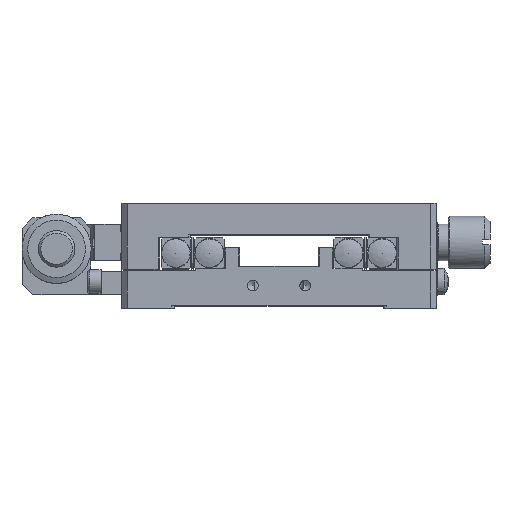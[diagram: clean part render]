
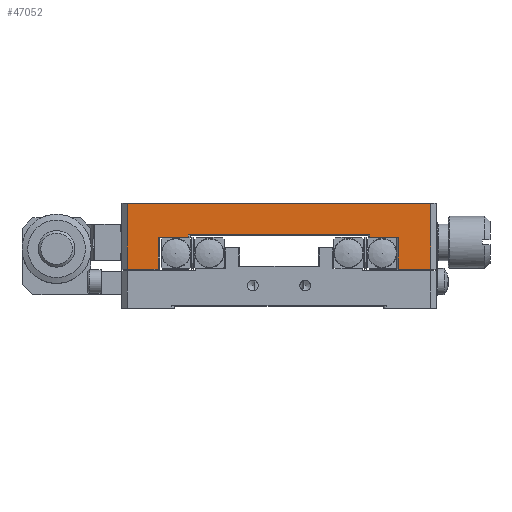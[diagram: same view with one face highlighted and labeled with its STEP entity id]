
A CAD part, top view. The second image highlights one B-rep face of the part: STEP entity #47052.
In plain terms, the highlighted planar face has unit normal (0, 0, 1).
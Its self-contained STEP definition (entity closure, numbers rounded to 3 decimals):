
#1277 = CARTESIAN_POINT ( 'NONE',  ( -54.062, 80.603, 68.814 ) ) ;
#4478 = EDGE_CURVE ( 'NONE', #77217, #39485, #8349, .T. ) ;
#4525 = CARTESIAN_POINT ( 'NONE',  ( -41.362, 74.103, 68.814 ) ) ;
#5377 = VECTOR ( 'NONE', #20090, 1000. ) ;
#5999 = DIRECTION ( 'NONE',  ( -1., 0., 0. ) ) ;
#6884 = EDGE_CURVE ( 'NONE', #79452, #70473, #79693, .T. ) ;
#7199 = DIRECTION ( 'NONE',  ( 0., 1., 0. ) ) ;
#7289 = EDGE_CURVE ( 'NONE', #39485, #77543, #30842, .T. ) ;
#8349 = LINE ( 'NONE', #34455, #52528 ) ;
#10360 = VERTEX_POINT ( 'NONE', #73588 ) ;
#10710 = CARTESIAN_POINT ( 'NONE',  ( -1.262, 80.603, 68.814 ) ) ;
#12898 = DIRECTION ( 'NONE',  ( 1., 0., 0. ) ) ;
#14016 = VECTOR ( 'NONE', #50628, 1000. ) ;
#14073 = EDGE_CURVE ( 'NONE', #70473, #10360, #65440, .T. ) ;
#14944 = LINE ( 'NONE', #84770, #53478 ) ;
#15242 = ORIENTED_EDGE ( 'NONE', *, *, #55490, .T. ) ;
#15269 = EDGE_CURVE ( 'NONE', #72899, #35197, #57055, .T. ) ;
#17430 = LINE ( 'NONE', #29447, #73167 ) ;
#19408 = EDGE_CURVE ( 'NONE', #77543, #76370, #14944, .T. ) ;
#19619 = CARTESIAN_POINT ( 'NONE',  ( -41.362, 80.603, 68.814 ) ) ;
#19826 = EDGE_LOOP ( 'NONE', ( #62827, #74398, #31021, #65463, #30287, #20762, #77461, #76802, #28064, #15242, #25110, #33393 ) ) ;
#20090 = DIRECTION ( 'NONE',  ( 1., 0., 0. ) ) ;
#20312 = CARTESIAN_POINT ( 'NONE',  ( -6.762, 80.603, 68.814 ) ) ;
#20762 = ORIENTED_EDGE ( 'NONE', *, *, #47780, .T. ) ;
#21188 = DIRECTION ( 'NONE',  ( 1., 0., 0. ) ) ;
#22324 = DIRECTION ( 'NONE',  ( 0., -1., 0. ) ) ;
#23988 = DIRECTION ( 'NONE',  ( 0., -1., 0. ) ) ;
#25101 = AXIS2_PLACEMENT_3D ( 'NONE', #1277, #71912, #5999 ) ;
#25110 = ORIENTED_EDGE ( 'NONE', *, *, #6884, .T. ) ;
#26723 = LINE ( 'NONE', #20312, #27448 ) ;
#27448 = VECTOR ( 'NONE', #46422, 1000. ) ;
#27516 = CARTESIAN_POINT ( 'NONE',  ( -1.262, 74.103, 68.814 ) ) ;
#28064 = ORIENTED_EDGE ( 'NONE', *, *, #41941, .T. ) ;
#29447 = CARTESIAN_POINT ( 'NONE',  ( -41.062, 74.603, 68.814 ) ) ;
#30167 = CARTESIAN_POINT ( 'NONE',  ( 4.938, 80.603, 68.814 ) ) ;
#30287 = ORIENTED_EDGE ( 'NONE', *, *, #19408, .T. ) ;
#30525 = CARTESIAN_POINT ( 'NONE',  ( 4.938, 68.003, 68.814 ) ) ;
#30842 = LINE ( 'NONE', #10710, #58162 ) ;
#30874 = VERTEX_POINT ( 'NONE', #70935 ) ;
#31021 = ORIENTED_EDGE ( 'NONE', *, *, #4478, .T. ) ;
#31847 = EDGE_CURVE ( 'NONE', #76052, #77217, #26723, .T. ) ;
#31996 = EDGE_CURVE ( 'NONE', #35197, #81334, #73716, .T. ) ;
#32943 = LINE ( 'NONE', #72736, #5377 ) ;
#33393 = ORIENTED_EDGE ( 'NONE', *, *, #14073, .T. ) ;
#34455 = CARTESIAN_POINT ( 'NONE',  ( -1.562, 74.103, 68.814 ) ) ;
#35197 = VERTEX_POINT ( 'NONE', #66399 ) ;
#36698 = CARTESIAN_POINT ( 'NONE',  ( -53.062, 68.003, 68.814 ) ) ;
#39485 = VERTEX_POINT ( 'NONE', #27516 ) ;
#39784 = DIRECTION ( 'NONE',  ( 1., 0., 0. ) ) ;
#41941 = EDGE_CURVE ( 'NONE', #81334, #30874, #32943, .T. ) ;
#43974 = VECTOR ( 'NONE', #7199, 1000. ) ;
#46422 = DIRECTION ( 'NONE',  ( 0., -1., 0. ) ) ;
#47052 = ADVANCED_FACE ( 'NONE', ( #64656 ), #79198, .F. ) ;
#47780 = EDGE_CURVE ( 'NONE', #76370, #72899, #72340, .T. ) ;
#49031 = CARTESIAN_POINT ( 'NONE',  ( -47.162, 80.603, 68.814 ) ) ;
#50628 = DIRECTION ( 'NONE',  ( -1., 0., 0. ) ) ;
#51257 = CARTESIAN_POINT ( 'NONE',  ( 4.938, 80.603, 68.814 ) ) ;
#52528 = VECTOR ( 'NONE', #21188, 1000. ) ;
#53478 = VECTOR ( 'NONE', #39784, 1000. ) ;
#53873 = CARTESIAN_POINT ( 'NONE',  ( -47.162, 74.103, 68.814 ) ) ;
#55490 = EDGE_CURVE ( 'NONE', #30874, #79452, #81590, .T. ) ;
#57055 = LINE ( 'NONE', #83184, #14016 ) ;
#58162 = VECTOR ( 'NONE', #23988, 1000. ) ;
#58528 = DIRECTION ( 'NONE',  ( 0., 1., 0. ) ) ;
#60014 = CARTESIAN_POINT ( 'NONE',  ( -1.562, 74.103, 68.814 ) ) ;
#60148 = CARTESIAN_POINT ( 'NONE',  ( -6.762, 74.103, 68.814 ) ) ;
#61400 = EDGE_CURVE ( 'NONE', #76052, #10360, #17430, .T. ) ;
#62827 = ORIENTED_EDGE ( 'NONE', *, *, #61400, .F. ) ;
#63372 = CARTESIAN_POINT ( 'NONE',  ( -6.762, 74.603, 68.814 ) ) ;
#64656 = FACE_OUTER_BOUND ( 'NONE', #19826, .T. ) ;
#65440 = LINE ( 'NONE', #19619, #43974 ) ;
#65463 = ORIENTED_EDGE ( 'NONE', *, *, #7289, .T. ) ;
#66399 = CARTESIAN_POINT ( 'NONE',  ( -53.062, 80.603, 68.814 ) ) ;
#67130 = VECTOR ( 'NONE', #22324, 1000. ) ;
#67896 = DIRECTION ( 'NONE',  ( 0., 1., 0. ) ) ;
#67993 = DIRECTION ( 'NONE',  ( -1., 0., 0. ) ) ;
#68907 = VECTOR ( 'NONE', #58528, 1000. ) ;
#70473 = VERTEX_POINT ( 'NONE', #4525 ) ;
#70935 = CARTESIAN_POINT ( 'NONE',  ( -47.162, 68.003, 68.814 ) ) ;
#71912 = DIRECTION ( 'NONE',  ( 0., 0., -1. ) ) ;
#72340 = LINE ( 'NONE', #51257, #68907 ) ;
#72736 = CARTESIAN_POINT ( 'NONE',  ( -46.562, 68.003, 68.814 ) ) ;
#72899 = VERTEX_POINT ( 'NONE', #30167 ) ;
#73167 = VECTOR ( 'NONE', #67993, 1000. ) ;
#73588 = CARTESIAN_POINT ( 'NONE',  ( -41.362, 74.603, 68.814 ) ) ;
#73716 = LINE ( 'NONE', #79727, #67130 ) ;
#74398 = ORIENTED_EDGE ( 'NONE', *, *, #31847, .T. ) ;
#76052 = VERTEX_POINT ( 'NONE', #63372 ) ;
#76370 = VERTEX_POINT ( 'NONE', #30525 ) ;
#76802 = ORIENTED_EDGE ( 'NONE', *, *, #31996, .T. ) ;
#77217 = VERTEX_POINT ( 'NONE', #60148 ) ;
#77340 = VECTOR ( 'NONE', #12898, 1000. ) ;
#77461 = ORIENTED_EDGE ( 'NONE', *, *, #15269, .T. ) ;
#77543 = VERTEX_POINT ( 'NONE', #80323 ) ;
#79198 = PLANE ( 'NONE',  #25101 ) ;
#79452 = VERTEX_POINT ( 'NONE', #53873 ) ;
#79693 = LINE ( 'NONE', #60014, #77340 ) ;
#79727 = CARTESIAN_POINT ( 'NONE',  ( -53.062, 80.603, 68.814 ) ) ;
#80323 = CARTESIAN_POINT ( 'NONE',  ( -1.262, 68.003, 68.814 ) ) ;
#81334 = VERTEX_POINT ( 'NONE', #36698 ) ;
#81503 = VECTOR ( 'NONE', #67896, 1000. ) ;
#81590 = LINE ( 'NONE', #49031, #81503 ) ;
#83184 = CARTESIAN_POINT ( 'NONE',  ( -54.062, 80.603, 68.814 ) ) ;
#84770 = CARTESIAN_POINT ( 'NONE',  ( 5.938, 68.003, 68.814 ) ) ;
